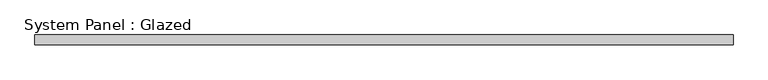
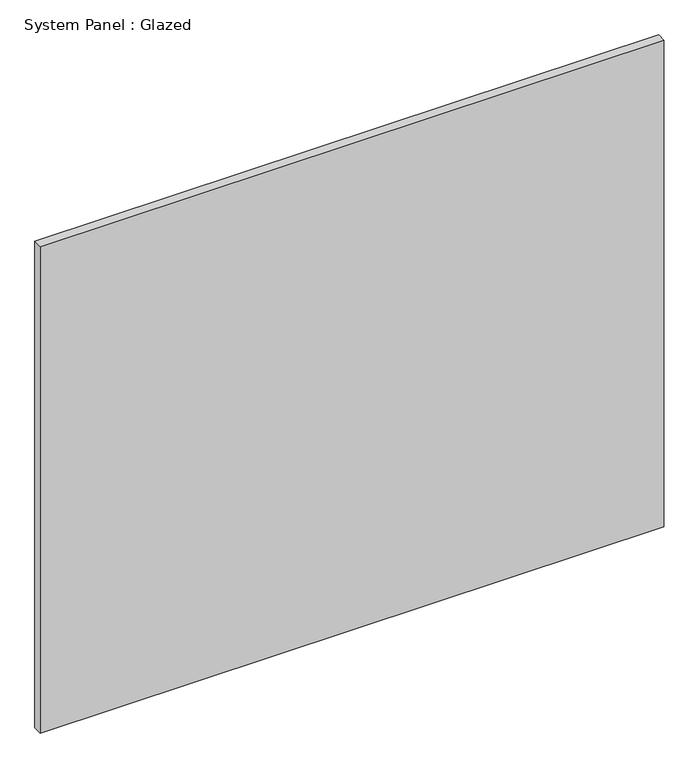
"""IFC4 building model written with IfcOpenShell, lengths in millimetres: plate geometry, System Panel : Glazed."""

from ifc_helpers import new_model, si_unit, origin, origin_with_axes, place, context, project, spatial, polyline, outline, extrude, source, transform, mapped, element, save


def system_panel_glazed_caecf980(model_context):
    return source(origin(), model_context, "Body", "SweptSolid", [
        extrude(outline(polyline([(872.1375, 30.6), (-872.1375, 30.6), (-872.1375, 55.6), (872.1375, 55.6), (872.1375, 30.6)])), origin_with_axes(), (0.0, 0.0, 1.0), 1438.275),
    ])


if __name__ == "__main__":
    model = new_model("IFC4")
    model_context = context("Model", 3, world=origin())
    ifc_project = project(units=[si_unit("LENGTHUNIT", "METRE", prefix="MILLI")], contexts=[model_context])
    site = spatial("IfcSite", under=ifc_project)
    building = spatial("IfcBuilding", under=site)
    placement = place(None, origin())
    system_panel_glazed_shape = system_panel_glazed_caecf980(model_context)
    element("IfcPlate", 1, ObjectType="System Panel : Glazed", at=placement, inside=building, context=model_context, shape_type="MappedRepresentation", body=[
        mapped(system_panel_glazed_shape, transform((0.0, 0.0, 0.0), x_axis=(1.0, 0.0, 0.0), y_axis=(0.0, 1.0, 0.0), z_axis=(0.0, 0.0, 1.0))),
    ])
    save(model, "model.ifc")
